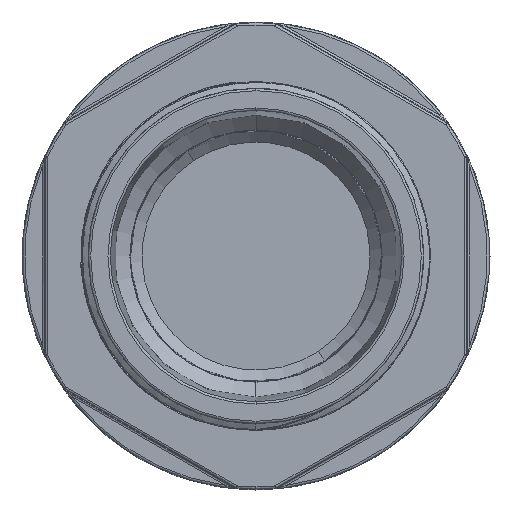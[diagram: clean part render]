
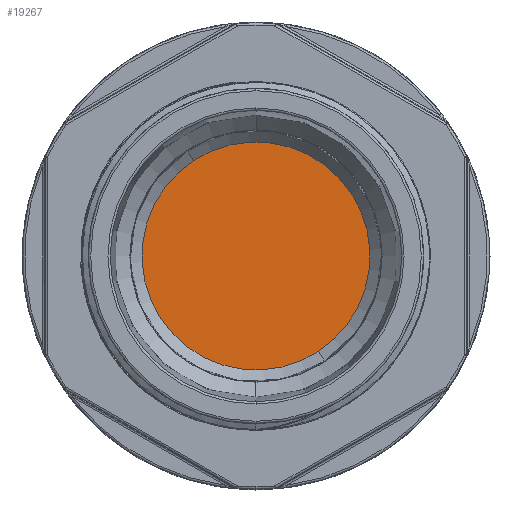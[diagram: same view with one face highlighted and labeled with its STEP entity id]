
A CAD part, front view. The second image highlights one B-rep face of the part: STEP entity #19267.
In plain terms, the highlighted planar face has unit normal (0, -1, 0).
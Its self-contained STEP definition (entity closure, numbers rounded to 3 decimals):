
#1096 = AXIS2_PLACEMENT_3D ( 'NONE', #12568, #5786, #24190 ) ;
#3146 = DIRECTION ( 'NONE',  ( 0., -1., 0. ) ) ;
#5786 = DIRECTION ( 'NONE',  ( 0., -1., 0. ) ) ;
#8282 = CARTESIAN_POINT ( 'NONE',  ( 0., 18., -14.738 ) ) ;
#9324 = DIRECTION ( 'NONE',  ( 0., 1., 0. ) ) ;
#12568 = CARTESIAN_POINT ( 'NONE',  ( 0., 18., 0. ) ) ;
#12715 = DIRECTION ( 'NONE',  ( 0., 0., 1. ) ) ;
#16632 = VERTEX_POINT ( 'NONE', #8282 ) ;
#18528 = CIRCLE ( 'NONE', #37070, 14.738 ) ;
#19267 = ADVANCED_FACE ( 'NONE', ( #39089 ), #20691, .F. ) ;
#20590 = VERTEX_POINT ( 'NONE', #35192 ) ;
#20691 = PLANE ( 'NONE',  #44379 ) ;
#24190 = DIRECTION ( 'NONE',  ( 0., 0., -1. ) ) ;
#25041 = CIRCLE ( 'NONE', #1096, 14.738 ) ;
#29016 = ORIENTED_EDGE ( 'NONE', *, *, #30058, .T. ) ;
#30058 = EDGE_CURVE ( 'NONE', #16632, #20590, #18528, .T. ) ;
#33753 = ORIENTED_EDGE ( 'NONE', *, *, #42603, .T. ) ;
#35192 = CARTESIAN_POINT ( 'NONE',  ( 0., 18., 14.738 ) ) ;
#36311 = CARTESIAN_POINT ( 'NONE',  ( 0., 18., 0. ) ) ;
#37070 = AXIS2_PLACEMENT_3D ( 'NONE', #36311, #3146, #40905 ) ;
#37988 = EDGE_LOOP ( 'NONE', ( #29016, #33753 ) ) ;
#39089 = FACE_OUTER_BOUND ( 'NONE', #37988, .T. ) ;
#40905 = DIRECTION ( 'NONE',  ( 0., 0., -1. ) ) ;
#42603 = EDGE_CURVE ( 'NONE', #20590, #16632, #25041, .T. ) ;
#42704 = CARTESIAN_POINT ( 'NONE',  ( 0., 18., 0. ) ) ;
#44379 = AXIS2_PLACEMENT_3D ( 'NONE', #42704, #9324, #12715 ) ;
